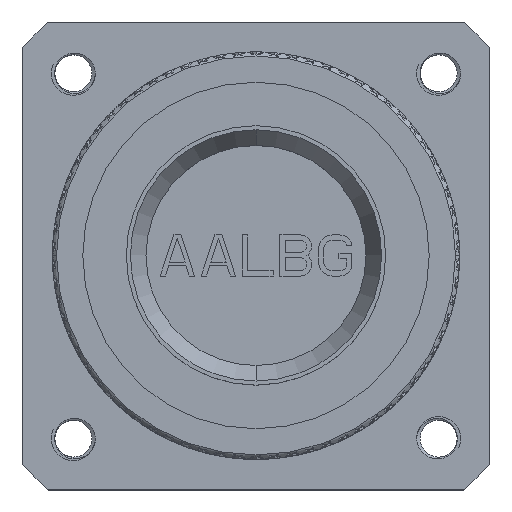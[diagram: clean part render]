
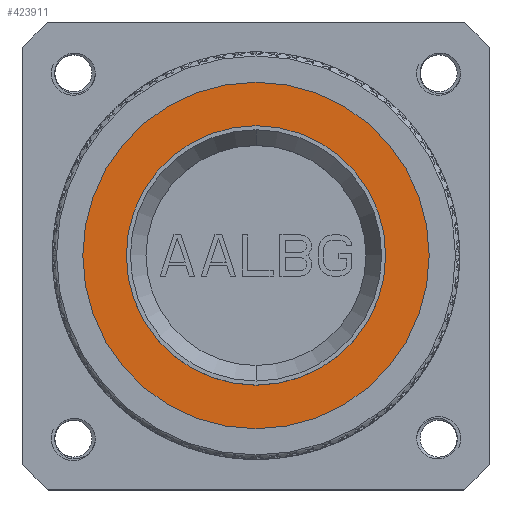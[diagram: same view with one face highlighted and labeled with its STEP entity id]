
A CAD part, top view. The second image highlights one B-rep face of the part: STEP entity #423911.
In plain terms, the highlighted planar face has unit normal (0, 0, 1).
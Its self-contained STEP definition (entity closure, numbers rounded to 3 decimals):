
#121210=CARTESIAN_POINT('',(0.,0.,37.021));
#121211=DIRECTION('',(0.,0.,-1.));
#121212=DIRECTION('',(1.,0.,0.));
#121213=AXIS2_PLACEMENT_3D('',#121210,#121211,#121212);
#121659=CARTESIAN_POINT('',(0.,0.,37.021));
#121660=DIRECTION('',(0.,0.,-1.));
#121661=DIRECTION('',(-1.,0.,0.));
#121662=AXIS2_PLACEMENT_3D('',#121659,#121660,#121661);
#121718=CARTESIAN_POINT('',(0.,0.,37.021));
#121719=DIRECTION('',(0.,0.,-1.));
#121720=DIRECTION('',(0.,-1.,0.));
#121721=AXIS2_PLACEMENT_3D('',#121718,#121719,#121720);
#121728=CARTESIAN_POINT('',(0.,0.,37.021));
#121729=DIRECTION('',(0.,0.,-1.));
#121730=DIRECTION('',(0.,1.,0.));
#121731=AXIS2_PLACEMENT_3D('',#121728,#121729,#121730);
#159339=CARTESIAN_POINT('',(21.1,0.,37.021));
#159340=CARTESIAN_POINT('',(-21.1,0.,37.021));
#159341=VERTEX_POINT('',#159339);
#159342=VERTEX_POINT('',#159340);
#159347=CARTESIAN_POINT('',(0.,-15.8,37.021));
#159348=CARTESIAN_POINT('',(0.,15.8,37.021));
#159349=VERTEX_POINT('',#159347);
#159350=VERTEX_POINT('',#159348);
#423895=CARTESIAN_POINT('',(0.,0.,37.021));
#423896=DIRECTION('',(0.,0.,1.));
#423897=DIRECTION('',(-1.,0.,0.));
#423898=AXIS2_PLACEMENT_3D('',#423895,#423896,#423897);
#423899=PLANE('35222',#423898);
#423900=ORIENTED_EDGE('35244',*,*,#423878,.T.);
#423902=ORIENTED_EDGE('35245',*,*,#423901,.T.);
#423903=EDGE_LOOP('35222',(#423900,#423902));
#423904=FACE_OUTER_BOUND('35222',#423903,.F.);
#423906=ORIENTED_EDGE('35247',*,*,#423905,.F.);
#423908=ORIENTED_EDGE('35249',*,*,#423907,.F.);
#423909=EDGE_LOOP('35222',(#423906,#423908));
#423910=FACE_BOUND('35222',#423909,.F.);
#121214=CIRCLE('35244',#121213,21.1);
#121663=CIRCLE('35245',#121662,21.1);
#121722=CIRCLE('35247',#121721,15.8);
#121732=CIRCLE('35249',#121731,15.8);
#423878=EDGE_CURVE('35244',#159341,#159342,#121214,.T.);
#423901=EDGE_CURVE('35245',#159342,#159341,#121663,.T.);
#423905=EDGE_CURVE('35247',#159349,#159350,#121722,.T.);
#423907=EDGE_CURVE('35249',#159350,#159349,#121732,.T.);
#423911=ADVANCED_FACE('35222',(#423904,#423910),#423899,.T.);
